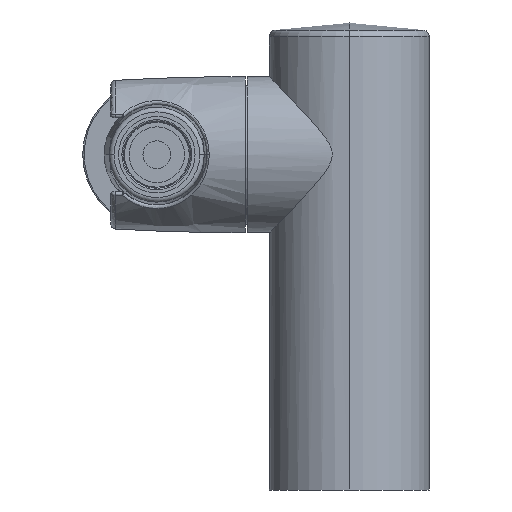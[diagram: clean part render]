
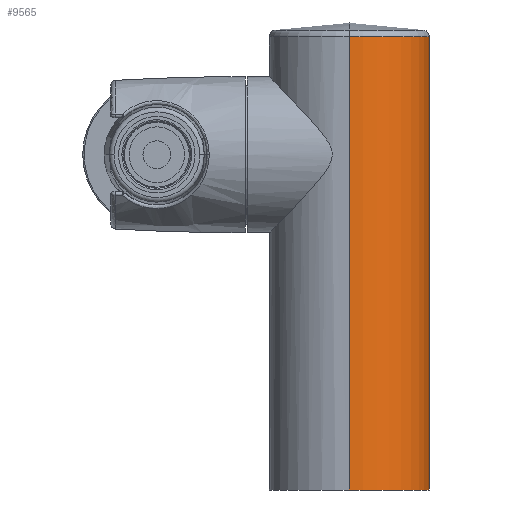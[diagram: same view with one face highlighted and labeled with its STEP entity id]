
A CAD part, front view. The second image highlights one B-rep face of the part: STEP entity #9565.
In plain terms, the highlighted cylindrical face has radius 17.25 mm (diameter 34.5 mm), a partial arc.
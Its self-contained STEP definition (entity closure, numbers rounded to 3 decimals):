
#3271=DIRECTION('',(0.,0.,1.));
#3272=VECTOR('',#3271,97.802);
#3273=CARTESIAN_POINT('',(200.,-17.25,-32.));
#3274=LINE('',#3273,#3272);
#3280=DIRECTION('',(0.,0.,1.));
#3281=VECTOR('',#3280,97.802);
#3282=CARTESIAN_POINT('',(200.,17.25,-32.));
#3283=LINE('',#3282,#3281);
#3408=CARTESIAN_POINT('',(200.,0.,65.802));
#3409=DIRECTION('',(0.,0.,1.));
#3410=DIRECTION('',(0.,-1.,0.));
#3411=AXIS2_PLACEMENT_3D('',#3408,#3409,#3410);
#3413=CARTESIAN_POINT('',(200.,0.,-32.));
#3414=DIRECTION('',(0.,0.,1.));
#3415=DIRECTION('',(0.,-1.,0.));
#3416=AXIS2_PLACEMENT_3D('',#3413,#3414,#3415);
#6598=CARTESIAN_POINT('',(200.,-17.25,-32.));
#6599=CARTESIAN_POINT('',(200.,17.25,-32.));
#6600=VERTEX_POINT('',#6598);
#6601=VERTEX_POINT('',#6599);
#6606=CARTESIAN_POINT('',(200.,-17.25,65.802));
#6607=CARTESIAN_POINT('',(200.,17.25,65.802));
#6608=VERTEX_POINT('',#6606);
#6609=VERTEX_POINT('',#6607);
#9553=CARTESIAN_POINT('',(200.,0.,-37.05));
#9554=DIRECTION('',(0.,0.,1.));
#9555=DIRECTION('',(0.,-1.,0.));
#9556=AXIS2_PLACEMENT_3D('',#9553,#9554,#9555);
#9557=CYLINDRICAL_SURFACE('',#9556,17.25);
#9558=ORIENTED_EDGE('',*,*,#9547,.T.);
#9559=ORIENTED_EDGE('',*,*,#9490,.F.);
#9561=ORIENTED_EDGE('',*,*,#9560,.F.);
#9562=ORIENTED_EDGE('',*,*,#9486,.T.);
#9563=EDGE_LOOP('',(#9558,#9559,#9561,#9562));
#9564=FACE_OUTER_BOUND('',#9563,.F.);
#9565=ADVANCED_FACE('',(#9564),#9557,.T.);
#3412=CIRCLE('',#3411,17.25);
#3417=CIRCLE('',#3416,17.25);
#9486=EDGE_CURVE('',#6600,#6608,#3274,.T.);
#9490=EDGE_CURVE('',#6601,#6609,#3283,.T.);
#9547=EDGE_CURVE('',#6608,#6609,#3412,.T.);
#9560=EDGE_CURVE('',#6600,#6601,#3417,.T.);
